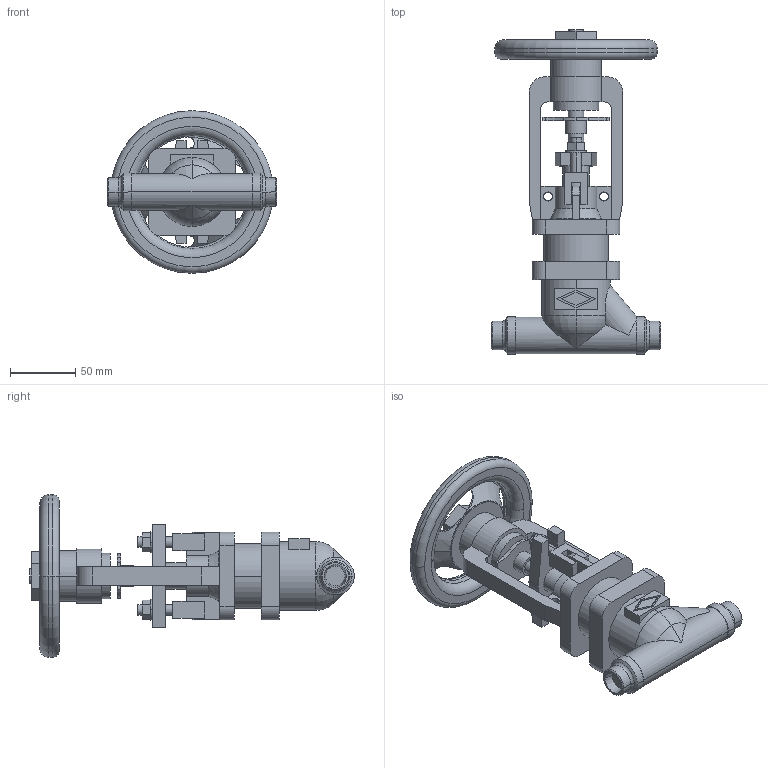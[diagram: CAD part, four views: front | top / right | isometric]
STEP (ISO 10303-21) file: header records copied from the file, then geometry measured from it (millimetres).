
FILE_DESCRIPTION(('OneSpaceDesigner STEP Export'),'2;1');
FILE_NAME('c000004302.stp','2010-05-06T 8:55:28',(''),(''),'OneSpace Designer STEP processor for AP214 (Solid Model)','OneSpace Modeling 15.50B 03-Nov-2007 (C) CoCreate Software GmbH','');
FILE_SCHEMA(('AUTOMOTIVE_DESIGN { 1 0 10303 214 1 1 1 1 }'));
Length unit declared in the file: millimetre
Products named in the file (1): 1
Bounding box: 130 x 249.5 x 125 mm (x, y, z)
Volume: 572187.2 mm3; surface area: 107877.3 mm2
Topology: 1 solids, 1 shells, 276 faces, 729 edges, 475 vertices
Faces by surface type: plane 138, cylinder 91, cone 26, torus 21
Entity records: 10768 total; most frequent: CARTESIAN_POINT 2042, ORIENTED_EDGE 1458, DIRECTION 1230, EDGE_CURVE 729, VERTEX_POINT 475, AXIS2_PLACEMENT_3D 411, VECTOR 408, LINE 408
